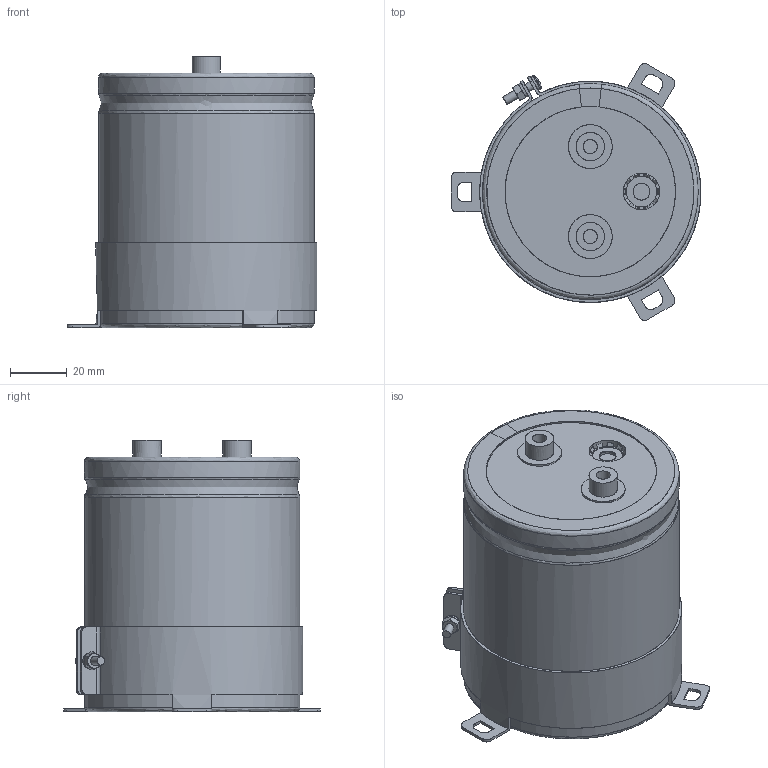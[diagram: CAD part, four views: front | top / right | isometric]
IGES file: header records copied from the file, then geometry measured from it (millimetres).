
Start section: JAMA-IS VERSION  1.0
Bounding box: 88.3 x 90.75 x 96 mm (x, y, z)
Surface area: 95007.9 mm2 (no closed solid volume)
Topology: 0 solids, 0 shells, 259 faces, 4448 edges, 4417 vertices
Faces by surface type: bspline 259
